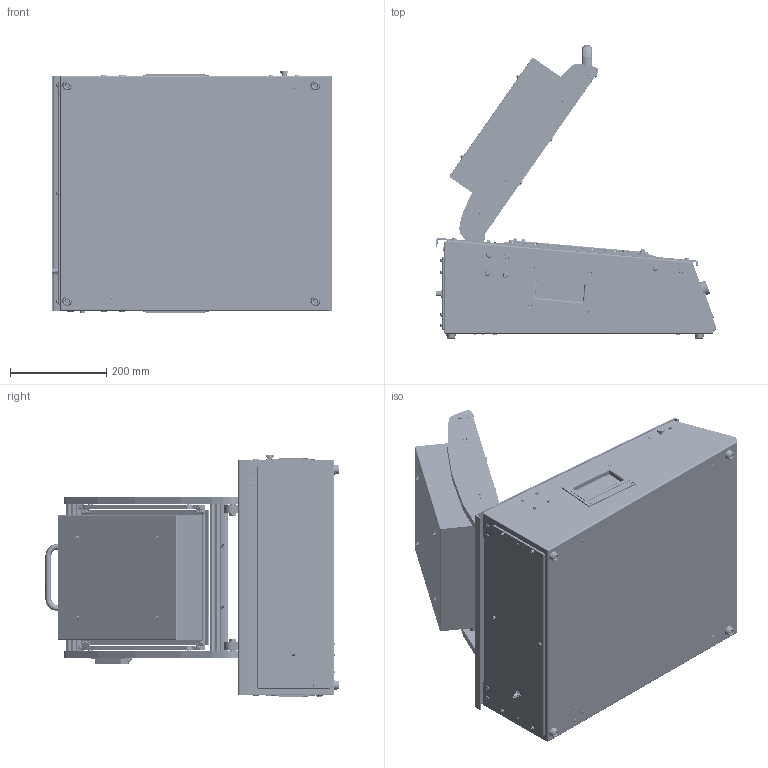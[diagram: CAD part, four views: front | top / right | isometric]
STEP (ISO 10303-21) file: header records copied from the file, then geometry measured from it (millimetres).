
FILE_DESCRIPTION (( 'STEP AP214' ), '1' );
FILE_NAME ('ARF-UPe-P-SHA2 - ouvert.STEP', '2026-09-29T09:13:32', ( '' ), ( '' ), 'SwSTEP 2.0', 'SolidWorks 2015', '' );
FILE_SCHEMA (( 'AUTOMOTIVE_DESIGN' ));
Length unit declared in the file: millimetre
Products named in the file (173): ehff_3x10; F Torx 04x12; RM_5; 8122_103; CIR_EXT_D8; 8122_008 - STEP; RZ_4; 8122_002; M05 Ef; 8122_100 - STEP; poignée pliable; 8122_001 - STEP; VIS EPAULEE 6X16_M5; 8122_102; 8122_158_Version D; BNS33-Schmresal; 8122_106 - STEP; 22-27-2031; F Torx 05x25; 54-1-3029_02; 8122_124 - STEP; 8630-01-t; ARF-UPe-P-SHA2 - ouvert; 22-27-2021; 8122_444; 8122_150; 8122_023 - STEP; 8007_700; 8122_132 - STEP; 5286_131; 8007_042; 8122_003 - STEP_Ouvert; RZ_3; F Torx 03x06; KQ2L06-01NS; chc_04x10; 8122_083_Ouvert; chc_03x06; SY5120_5LZD_01; RM_6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
Assembly tree (551 placements, depth 5):
  ARF-UPe-P-SHA2 - ouvert
    8122_023 - STEP
      8122_100 - STEP
        8122_100 - STEP
        8122_101  x4
        8122_102
        8122_103  x2
        cft_m4_10_i  x18
        eac_m4  x4
        8122_104
      j01027a0008  x2
      chc_03x06  x8
      RM_4  x18
      M04 Hu  x18
      5286_131  x2
      F Torx 04x10  x4
      202102
    8122_024 - STEP
      8122_109 - STEP
        8122_109-STEP
        8122_105 - STEP  x2
        8122_106 - STEP  x2
        cft_m4_15_i_tst  x4
      mousse_rf_198x54  x2
      mousse_rf_300x258
      mousse_rf_300x54  x2
      8122_116  x4
      chc_04x06  x4
      RM_4  x4
      ehff_4x45  x4
      RZ_4  x4
      chc_04x16  x8
      M04 Hu  x4
      chc_04x12  x3
    8122_002
      8122_125
        8122_125
        eac_m4  x24
        eac_m5  x4
      8122_007_Version C
        8122_112_version C
        8122_113_version C
        Tête moltée M5
        ASR_T030180172L
        M05 Hu
        F Torx 04x14  x2
        chc_05x40
        Rd Cuv pleine M4  x2
        el_d5x5
        gd5x20
        gd4x20
      8122_162  x2
      8131_110 (PlaqueID)
      8122_161  x2
      poignée pliable  x2
      048_2000_114_07  x4
      54-1-3029_01  x2
      CIR_EXT_D5.6  x2
      chc_02,5x20  x2
      M02.5 h  x2
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Bounding box: 582.48 x 610.27 x 503 mm (x, y, z)
Volume: 11772816.3 mm3; surface area: 5024241.5 mm2
Topology: 534 solids, 688 shells, 16335 faces, 40299 edges, 25978 vertices
Faces by surface type: cylinder 7199, plane 5955, cone 2138, torus 660, bspline 313, sphere 70
Entity records: 271550 total; most frequent: CARTESIAN_POINT 64078, DIRECTION 40044, ORIENTED_EDGE 36895, EDGE_CURVE 18684, AXIS2_PLACEMENT_3D 14937, VERTEX_POINT 12225, VECTOR 10170, LINE 10170
